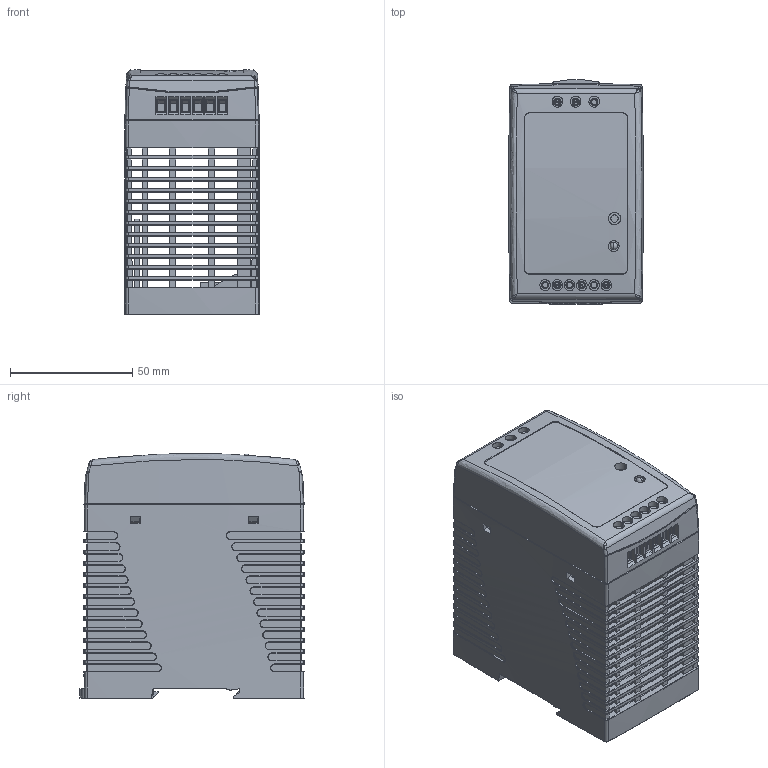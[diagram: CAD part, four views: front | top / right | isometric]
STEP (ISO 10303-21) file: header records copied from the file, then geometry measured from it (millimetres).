
FILE_DESCRIPTION(('Creo Elements/Direct Modeling STEP Export'),'2;1');
FILE_NAME('mdr-100.stp','2019-12-12T10:21:58',(''),(''),'PTC Creo Elements/Direct Modeling STEP processor for AP214 (Solid Model)','PTC Creo Elements/Direct Modeling 19.0 09-May-2014 (C) Parametric Technology GmbH','');
FILE_SCHEMA(('AUTOMOTIVE_DESIGN { 1 0 10303 214 1 1 1 1 }'));
Length unit declared in the file: millimetre
Products named in the file (30): PCB; MOS15.5x10.1.1.1.1; MOS; gg.1; uu; hs1; ÊjˆO´t; ÊpˆO; 3P-CONECT.1; 3P-CONECT; 3p-conect.stp; Êppcb; LED; VR; a2.1; ÊpˆO´t; a2; a3; hs4; dd; Ýƒ¿_; Ë£éÕ; a1; 1011-body.stp; 1011-hook.stp; 1011-TOP; 1011-top.stp; Ë@ÛËâèÛæ; ALL
Assembly tree (30 placements, depth 7):
  ALL
    Ë@ÛËâèÛæ
      1011-top.stp
        1011-TOP
      1011-hook.stp
      1011-body.stp
    a1
      Ë£éÕ
      Ýƒ¿_
    dd
    hs4
    a3
      a2
        ÊpˆO´t
          a2.1
            VR
            LED
          Êppcb
            3p-conect.stp
              3P-CONECT
              3P-CONECT.1
            ÊpˆO
    ÊjˆO´t
      hs1
        uu
        gg.1
      MOS
        MOS15.5x10.1.1.1.1  x2
      PCB
        PCB
Bounding box: 55 x 91.65 x 100.04 mm (x, y, z)
Volume: 107121.9 mm3; surface area: 121892.6 mm2
Topology: 13 solids, 13 shells, 2010 faces, 6041 edges, 3850 vertices
Faces by surface type: plane 1065, bspline 383, cylinder 352, cone 177, torus 31, extrusion 2
Entity records: 92234 total; most frequent: CARTESIAN_POINT 41963, ORIENTED_EDGE 11950, DIRECTION 8205, EDGE_CURVE 5975, VERTEX_POINT 3806, VECTOR 3431, LINE 3429, AXIS2_PLACEMENT_3D 2387
